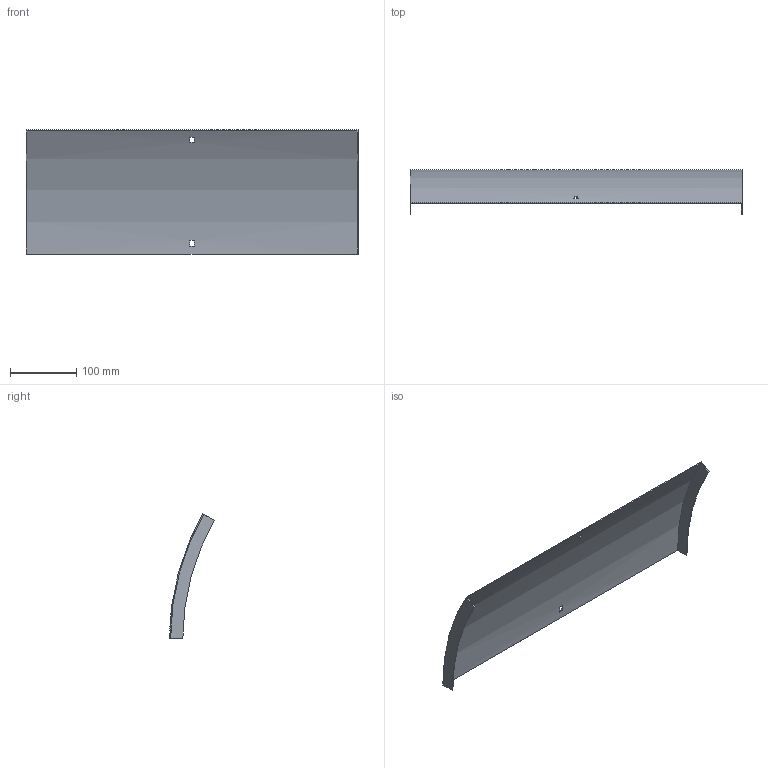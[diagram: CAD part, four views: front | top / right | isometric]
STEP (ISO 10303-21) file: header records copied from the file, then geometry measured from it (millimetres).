
FILE_DESCRIPTION (( 'STEP AP214' ), '1' );
FILE_NAME ('B2_35N3C500.step', '2025-02-21T10:31:57', ( '' ), ( '' ), 'SwSTEP 2.0', 'SolidWorks 2023', '' );
FILE_SCHEMA (( 'AUTOMOTIVE_DESIGN' ));
Length unit declared in the file: millimetre
Products named in the file (1): B2_35N3C500
Bounding box: 503 x 67.76 x 188.25 mm (x, y, z)
Volume: 158894.9 mm3; surface area: 214134.2 mm2
Topology: 1 solids, 1 shells, 18 faces, 48 edges, 32 vertices
Faces by surface type: plane 14, cylinder 4
Entity records: 599 total; most frequent: DIRECTION 102, CARTESIAN_POINT 99, ORIENTED_EDGE 96, EDGE_CURVE 48, AXIS2_PLACEMENT_3D 35, VECTOR 32, VERTEX_POINT 32, LINE 32
